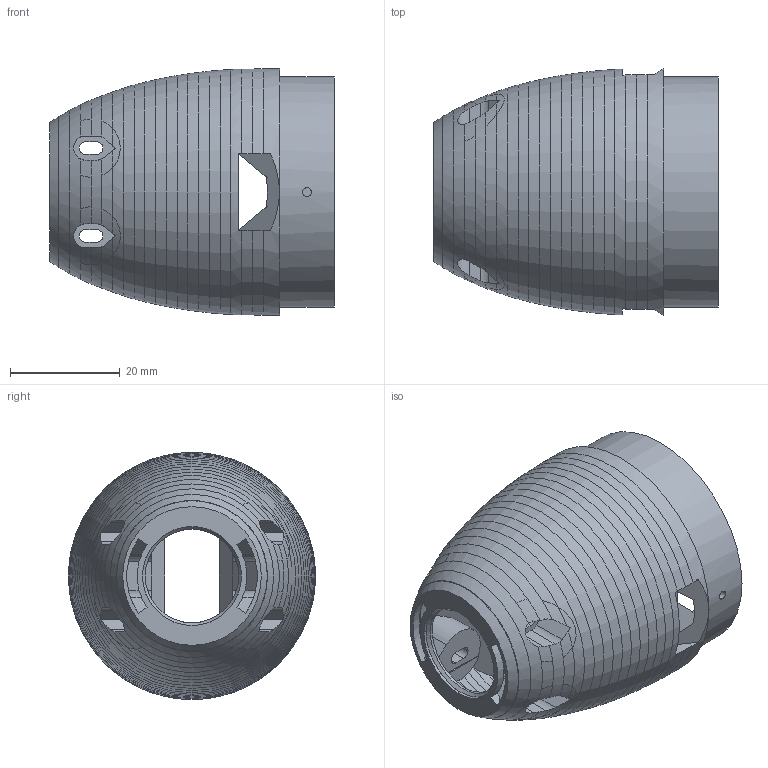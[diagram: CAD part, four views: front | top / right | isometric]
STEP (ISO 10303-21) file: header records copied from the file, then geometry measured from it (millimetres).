
FILE_DESCRIPTION(('Open CASCADE Model'),'2;1');
FILE_NAME('Open CASCADE Shape Model','2026-10-04T08:08:20',('Author'),( 'Open CASCADE'),'Open CASCADE STEP processor 7.9','Open CASCADE 7.9' ,'Unknown');
FILE_SCHEMA(('AUTOMOTIVE_DESIGN { 1 0 10303 214 1 1 1 1 }'));
Length unit declared in the file: millimetre
Products named in the file (1): Open CASCADE STEP translator 7.9 5
Bounding box: 51.9 x 45 x 45 mm (x, y, z)
Volume: 32987.2 mm3; surface area: 17553.3 mm2
Topology: 1 solids, 1 shells, 344 faces, 1009 edges, 660 vertices
Faces by surface type: plane 197, cone 106, cylinder 41
Full cylindrical faces by diameter (mm): 1.6 x2, 17.04 x1, 18.046 x1, 38.8 x1, 42 x1, 45 x1
Entity records: 28194 total; most frequent: CARTESIAN_POINT 9490, DIRECTION 3172, ORIENTED_EDGE 2024, PCURVE 2018, DEFINITIONAL_REPRESENTATION 2018, LINE 1410, VECTOR 1410, EDGE_CURVE 1009
